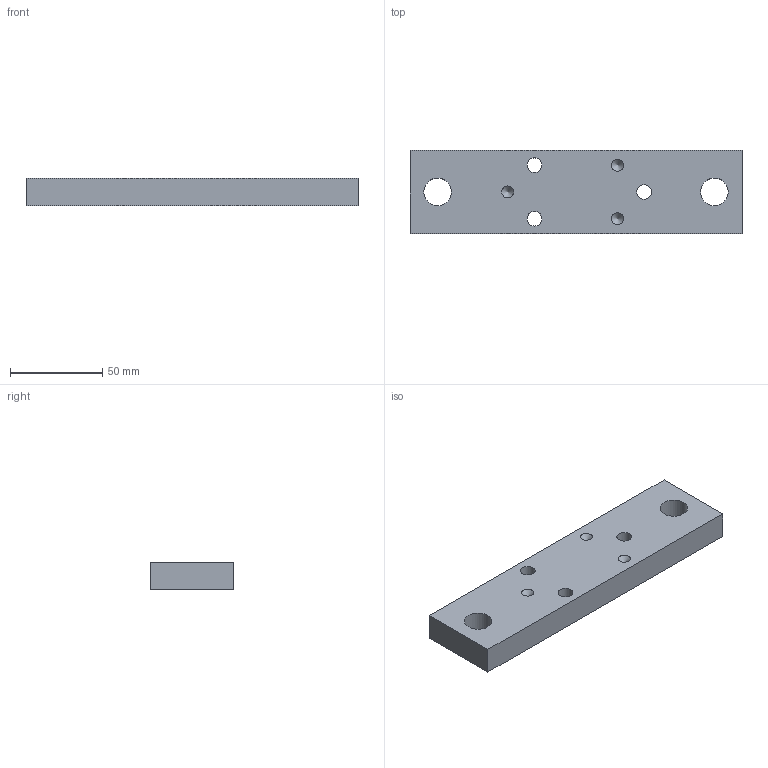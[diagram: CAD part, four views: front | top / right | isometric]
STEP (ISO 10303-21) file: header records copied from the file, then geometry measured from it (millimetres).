
FILE_DESCRIPTION((''),'2;1');
FILE_NAME('C:\Documents and Settings\Administrator\My Documents\Andys Backup Data\ANDY''S INVENTOR\INVENTOR LIBRARIES\MINITEC INVENTOR LIBRARIES\FEET WHEELS FLOOR FASTENING SUPPORTS\A PACKED FILES\STEP FILES\21.1053 LEVELING PLATE 45.stp','2010-06-28T08:10:50',('Administrator'),(''),'Autodesk Inventor 2009','Autodesk Inventor 2009','');
FILE_SCHEMA(('CONFIG_CONTROL_DESIGN'));
Length unit declared in the file: millimetre
Products named in the file (1): 21.1053 LEVELING PLATE 45
Bounding box: 180 x 45 x 15 mm (x, y, z)
Volume: 113828.9 mm3; surface area: 24527.8 mm2
Topology: 1 solids, 1 shells, 20 faces, 42 edges, 27 vertices
Faces by surface type: bspline 9, plane 6, cylinder 5
Full cylindrical faces by diameter (mm): 8 x3, 15 x2
Entity records: 601 total; most frequent: CARTESIAN_POINT 190, DIRECTION 74, ORIENTED_EDGE 62, EDGE_LOOP 44, AXIS2_PLACEMENT_3D 31, EDGE_CURVE 31, VERTEX_POINT 27, FACE_BOUND 24
